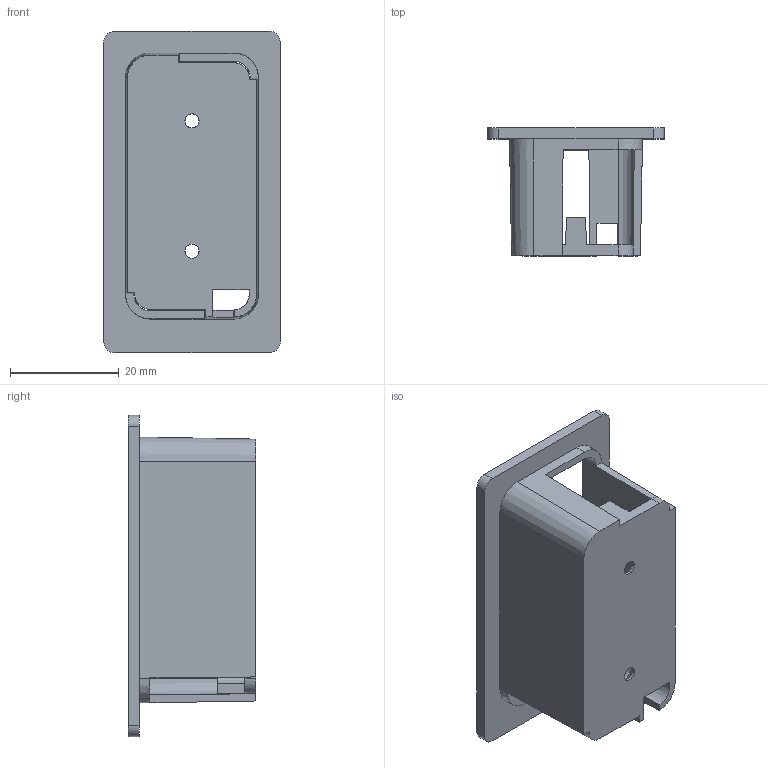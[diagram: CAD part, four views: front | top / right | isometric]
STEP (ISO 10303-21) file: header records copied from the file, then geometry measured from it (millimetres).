
FILE_DESCRIPTION(/* description */ ('Unknown'),/* implementation_level */ '2;1');
FILE_NAME(/* name */ 'ekey dLine adapter TB_download',/* time_stamp */ '2020-12-10T15:59:19+01:00',/* author */ ('Unknown'),/* organization */ ('Unknown'),/* preprocessor_version */ 'ST-DEVELOPER v16.7',/* originating_system */ 'Solid Edge',/* authorisation */ 'Unknown');
FILE_SCHEMA (('AUTOMOTIVE_DESIGN {1 0 10303 214 3 1 1}'));
Length unit declared in the file: millimetre
Products named in the file (1): 0040_004_ekey dLine adapter TB
Bounding box: 32.5 x 23.5 x 59.2 mm (x, y, z)
Volume: 6943.2 mm3; surface area: 8954.8 mm2
Topology: 1 solids, 1 shells, 69 faces, 195 edges, 126 vertices
Faces by surface type: plane 43, cone 20, bspline 4, cylinder 2
Entity records: 2254 total; most frequent: CARTESIAN_POINT 419, ORIENTED_EDGE 376, DIRECTION 366, EDGE_CURVE 188, LINE 142, VECTOR 142, VERTEX_POINT 125, AXIS2_PLACEMENT_3D 112
